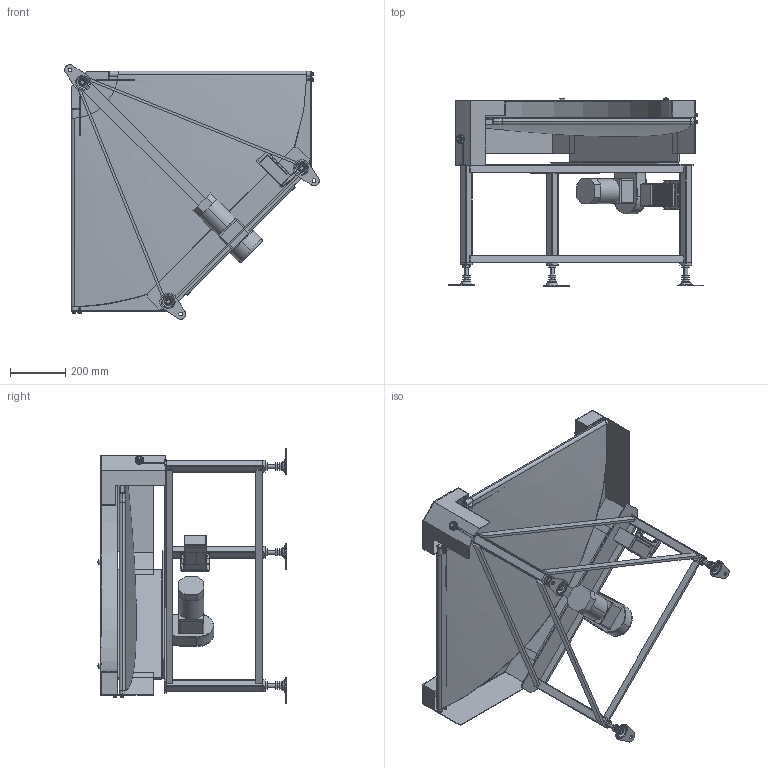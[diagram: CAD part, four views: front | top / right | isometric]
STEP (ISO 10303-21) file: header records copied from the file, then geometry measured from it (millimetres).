
FILE_DESCRIPTION (( 'STEP AP214' ), '1' );
FILE_NAME ('SWD-MBC3-UD-600-L_B.STEP', '2021-08-20T08:45:46', ( '' ), ( '' ), 'SwSTEP 2.0', 'SolidWorks 2017', '' );
FILE_SCHEMA (( 'AUTOMOTIVE_DESIGN' ));
Length unit declared in the file: millimetre
Products named in the file (24): hexagon thin nut double chamfered_ab_jis_JIS B 1181 Hexagon thin nut - double chamfered A M16 --N; SWD-GBC90-僾乕儕+儀儖僩-600-L; VFD001L21A; SWD-GBC-S-430-10-脚-600; M6x10-GBC; SWD-GBC-S-220-2-内カバー; 購入品-寸切りボルトM16x1000_L110; 084 平座金 JIS B 1256 並形_三価白_JIS B 1256 平座金(並)  6 三価白; SWD-GBC-S-330-5-外カバー-600; CB-S-010; SWD-MBC3-UD-600-L_B; 脱落防止ネジ-M5x12; 084 六角ﾎﾞﾙﾄ_三価クロメート_084六角ﾎﾞﾙﾄ(三価クロメート) M6 x 12; 084 六角ﾎﾞﾙﾄ_三価クロメート_084六角ﾎﾞﾙﾄ(三価クロメート) M8 x 35; モータ-MBC3-UD; KIF-30-M8; 皿ネジ M6x10; AJ-020_呼び100; 084 歯付き座金 さら型(C) JIS B 1255p2 三価クロメート_JIS B 1255 C 6 三価クロメート; 084 ばね座金 JIS B1251 一般用(2号)_三価白_JIS B 1251 No.2 6 三価白; SWD-MBC3-UD-尨摦儀乕僗+僽儔働僢僩-500,600; AJ-020; スピコンインバータ_L
Assembly tree (33 placements, depth 3):
  SWD-MBC3-UD-600-L_B
    SWD-GBC-S-220-2-内カバー
    SWD-GBC90-僾乕儕+儀儖僩-600-L
    SWD-GBC-S-330-5-外カバー-600
    SWD-GBC-S-430-10-脚-600
    AJ-020_呼び100  x3
      AJ-020
      購入品-寸切りボルトM16x1000_L110
      hexagon thin nut double chamfered_ab_jis_JIS B 1181 Hexagon thin nut - double chamfered A M16 --N
    KIF-30-M8
    SWD-MBC3-UD-尨摦儀乕僗+僽儔働僢僩-500,600
    084 六角ﾎﾞﾙﾄ_三価クロメート_084六角ﾎﾞﾙﾄ(三価クロメート) M8 x 35
    M6x10-GBC  x4
      084 六角ﾎﾞﾙﾄ_三価クロメート_084六角ﾎﾞﾙﾄ(三価クロメート) M6 x 12
      084 ばね座金 JIS B1251 一般用(2号)_三価白_JIS B 1251 No.2 6 三価白
      084 平座金 JIS B 1256 並形_三価白_JIS B 1256 平座金(並)  6 三価白
    脱落防止ネジ-M5x12  x2
    スピコンインバータ_L
      CB-S-010
      VFD001L21A
    モータ-MBC3-UD
    皿ネジ M6x10  x2
      皿ネジ M6x10
      084 歯付き座金 さら型(C) JIS B 1255p2 三価クロメート_JIS B 1255 C 6 三価クロメート
Bounding box: 917.51 x 677.92 x 917.51 mm (x, y, z)
Volume: 8790071.2 mm3; surface area: 5970918.9 mm2
Topology: 63 solids, 63 shells, 2253 faces, 5573 edges, 3480 vertices
Faces by surface type: plane 942, cylinder 846, cone 332, bspline 65, torus 58, sphere 10
Entity records: 51744 total; most frequent: CARTESIAN_POINT 15248, DIRECTION 7497, ORIENTED_EDGE 7324, EDGE_CURVE 3662, AXIS2_PLACEMENT_3D 2731, VERTEX_POINT 2313, VECTOR 2035, LINE 2035
